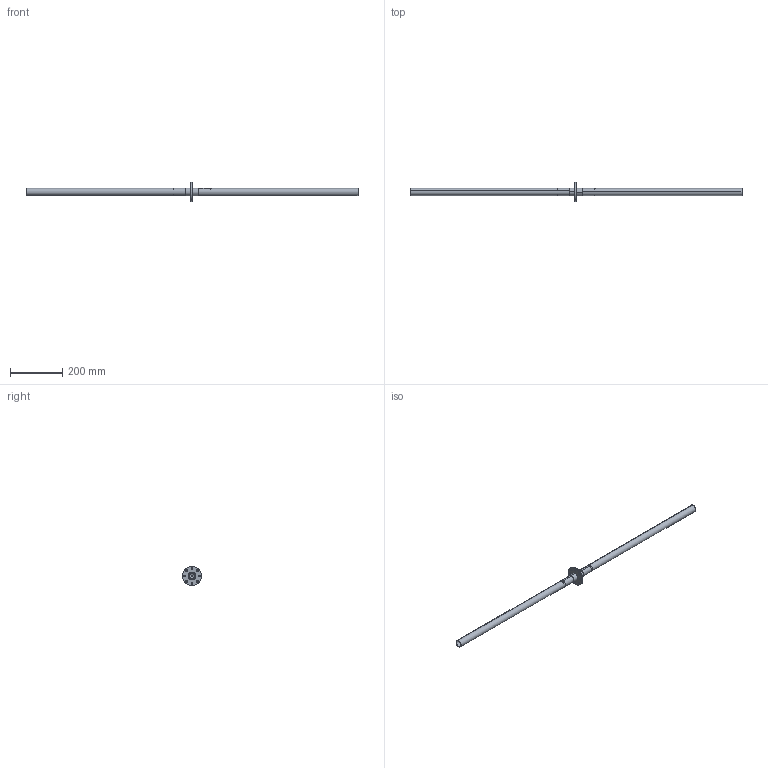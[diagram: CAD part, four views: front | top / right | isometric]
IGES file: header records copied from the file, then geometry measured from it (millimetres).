
Start section: SolidWorks IGES file using analytic representation for surfaces
Global section: file name: \\SERVER3\Design\_NEWDE~1\_DESIG~1\AAI\MODULA~1\SOLIDW~1\DEMONS~1\25DBF2~1.ASS\MODULA~1\235A3~1.COA\COAXIA~2\Threaded Hex Bossed End Connector to Hex Keyed Disk to Threaded End Connector.IGS; native system: SolidWorks 2013; preprocessor: SolidWorks 2013; author: tbraun; date: 130909.122000; units: inch
Bounding box: 1270.95 x 73.03 x 73.03 mm (x, y, z)
Surface area: 236482.4 mm2 (no closed solid volume)
Topology: 0 solids, 0 shells, 197 faces, 3469 edges, 3467 vertices
Faces by surface type: revolution 131, bspline 66
